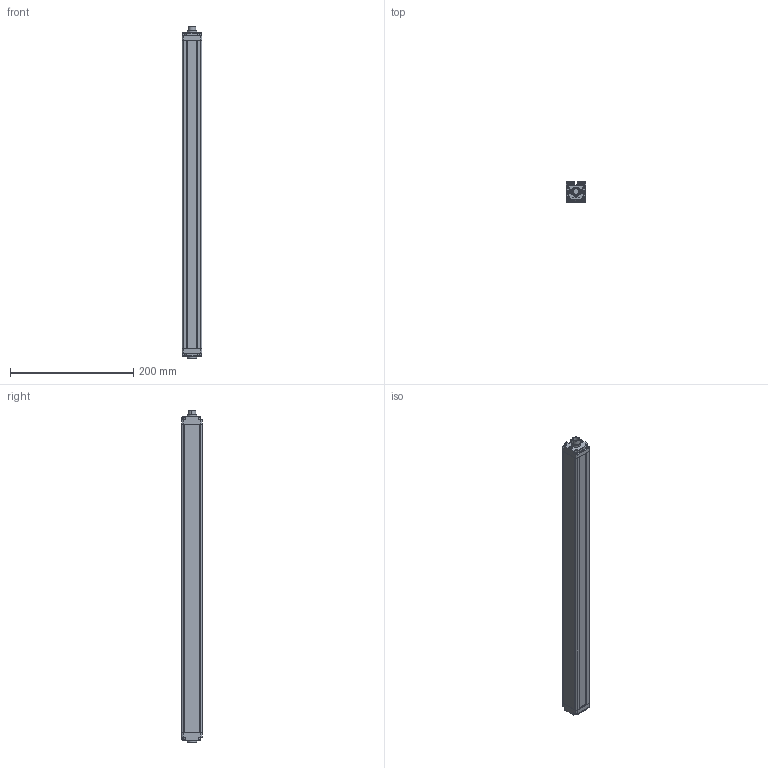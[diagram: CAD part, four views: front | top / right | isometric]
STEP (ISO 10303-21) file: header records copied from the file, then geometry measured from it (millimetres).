
FILE_DESCRIPTION(/* description */ (''),/* implementation_level */ '2;1');
FILE_NAME(/* name */ 'TYG20-24.stp',/* time_stamp */ '2023-08-24T10:46:02+08:00',/* author */ (''),/* organization */ (''),/* preprocessor_version */ 'ST-DEVELOPER v16',/* originating_system */ 'SIEMENS PLM Software NX 11.0',/* authorisation */ '');
FILE_SCHEMA (('AUTOMOTIVE_DESIGN { 1 0 10303 214 3 1 1 1 }'));
Length unit declared in the file: millimetre
Products named in the file (5): YAKELI; B-0823; K-0823; 20230331; TYG20-_stp
Assembly tree (4 placements, depth 2):
  TYG20-_stp
    20230331
    K-0823
    B-0823
    YAKELI
Bounding box: 31.87 x 33.07 x 538 mm (x, y, z)
Volume: 177317.9 mm3; surface area: 186723.5 mm2
Topology: 4 solids, 4 shells, 629 faces, 1887 edges, 1256 vertices
Faces by surface type: plane 346, cylinder 203, cone 36, sphere 16, torus 16, extrusion 8, bspline 4
Entity records: 21873 total; most frequent: CARTESIAN_POINT 4475, ORIENTED_EDGE 3758, DIRECTION 3551, EDGE_CURVE 1879, VERTEX_POINT 1256, AXIS2_PLACEMENT_3D 1188, VECTOR 1175, LINE 1167
